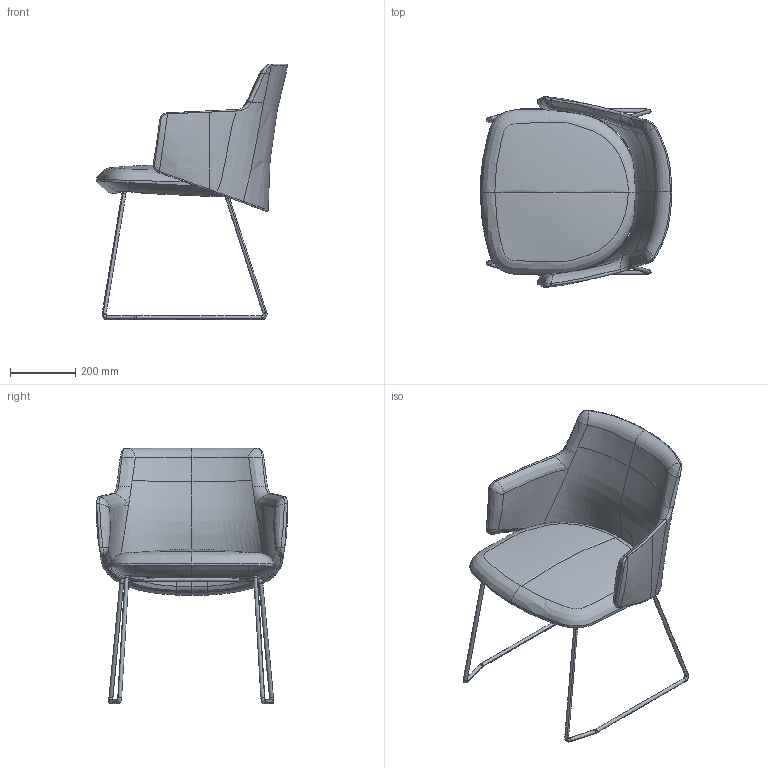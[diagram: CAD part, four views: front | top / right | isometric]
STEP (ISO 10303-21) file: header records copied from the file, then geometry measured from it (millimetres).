
FILE_DESCRIPTION(/* description */ (''),/* implementation_level */ '2;1');
FILE_NAME(/* name */ 'MELODY~1',/* time_stamp */ '2019-06-24T11:19:45+02:00',/* author */ (''),/* organization */ (''),/* preprocessor_version */ 'ST-DEVELOPER v15',/* originating_system */ '',/* authorisation */ '');
FILE_SCHEMA (('AUTOMOTIVE_DESIGN'));
Length unit declared in the file: millimetre
Products named in the file (1): Document
Bounding box: 585.29 x 583.87 x 780.7 mm (x, y, z)
Volume: 379267.4 mm3; surface area: 1519580.4 mm2
Topology: 1 solids, 11 shells, 177 faces, 515 edges, 309 vertices
Faces by surface type: bspline 160, plane 17
Entity records: 56562 total; most frequent: CARTESIAN_POINT 53557, ORIENTED_EDGE 889, EDGE_CURVE 514, B_SPLINE_CURVE_WITH_KNOTS 426, VERTEX_POINT 308, EDGE_LOOP 185, ADVANCED_FACE 177, FACE_OUTER_BOUND 177
